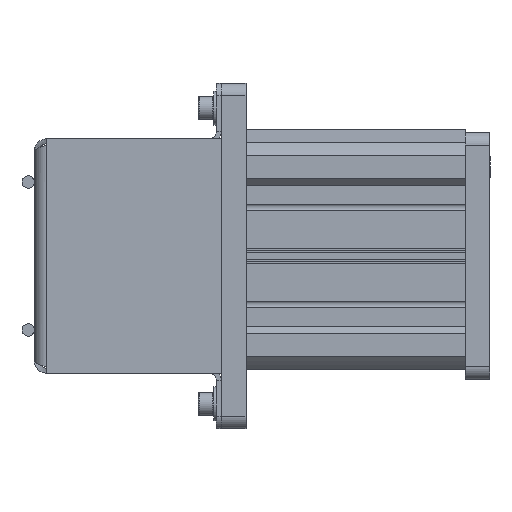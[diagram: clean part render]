
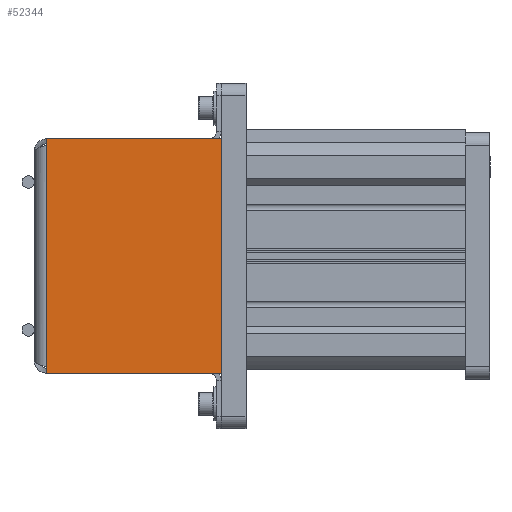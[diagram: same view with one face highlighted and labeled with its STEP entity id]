
A CAD part, left-side view. The second image highlights one B-rep face of the part: STEP entity #52344.
In plain terms, the highlighted planar face has unit normal (-1, 0, 0).
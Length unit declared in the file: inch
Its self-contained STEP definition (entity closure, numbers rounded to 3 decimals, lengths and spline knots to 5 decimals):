
#819 = VERTEX_POINT ( 'NONE', #18043 ) ;
#1921 = VERTEX_POINT ( 'NONE', #27106 ) ;
#2713 = CARTESIAN_POINT ( 'NONE',  ( -9., 3.69344, 0. ) ) ;
#3645 = EDGE_LOOP ( 'NONE', ( #19787, #14010, #46756, #21790, #54182, #21601 ) ) ;
#3896 = AXIS2_PLACEMENT_3D ( 'NONE', #2713, #19773, #44397 ) ;
#5551 = LINE ( 'NONE', #28901, #43637 ) ;
#8364 = CARTESIAN_POINT ( 'NONE',  ( -9., 3.54344, -2.375 ) ) ;
#8905 = VECTOR ( 'NONE', #29077, 39.37008 ) ;
#9940 = EDGE_CURVE ( 'NONE', #819, #27260, #52284, .T. ) ;
#11980 = DIRECTION ( 'NONE',  ( 0., -1., 0. ) ) ;
#12514 = CARTESIAN_POINT ( 'NONE',  ( -9., 3.54344, -2.24716 ) ) ;
#12568 = VECTOR ( 'NONE', #25606, 39.37008 ) ;
#12743 = DIRECTION ( 'NONE',  ( 0., -1., 0. ) ) ;
#14010 = ORIENTED_EDGE ( 'NONE', *, *, #46773, .F. ) ;
#15482 = EDGE_CURVE ( 'NONE', #819, #21083, #53516, .T. ) ;
#18043 = CARTESIAN_POINT ( 'NONE',  ( -9., 3.54344, -2.24716 ) ) ;
#19773 = DIRECTION ( 'NONE',  ( 1., 0., 0. ) ) ;
#19787 = ORIENTED_EDGE ( 'NONE', *, *, #32410, .T. ) ;
#21005 = EDGE_CURVE ( 'NONE', #27260, #1921, #42188, .T. ) ;
#21083 = VERTEX_POINT ( 'NONE', #48556 ) ;
#21446 = VECTOR ( 'NONE', #46226, 39.37008 ) ;
#21514 = CARTESIAN_POINT ( 'NONE',  ( -9., 0., 2.375 ) ) ;
#21601 = ORIENTED_EDGE ( 'NONE', *, *, #22900, .T. ) ;
#21790 = ORIENTED_EDGE ( 'NONE', *, *, #9940, .F. ) ;
#22900 = EDGE_CURVE ( 'NONE', #21083, #47095, #49785, .T. ) ;
#25102 = VECTOR ( 'NONE', #47476, 39.37008 ) ;
#25606 = DIRECTION ( 'NONE',  ( 0., 0., 1. ) ) ;
#27106 = CARTESIAN_POINT ( 'NONE',  ( -9., 3.54344, 2.375 ) ) ;
#27260 = VERTEX_POINT ( 'NONE', #45812 ) ;
#28901 = CARTESIAN_POINT ( 'NONE',  ( -9., 3.54344, 2.375 ) ) ;
#29077 = DIRECTION ( 'NONE',  ( 0., 0., -1. ) ) ;
#32397 = CARTESIAN_POINT ( 'NONE',  ( -9., 0., -2.375 ) ) ;
#32410 = EDGE_CURVE ( 'NONE', #47095, #49061, #35578, .T. ) ;
#34903 = CARTESIAN_POINT ( 'NONE',  ( -9., 3.54344, 2.24716 ) ) ;
#35578 = LINE ( 'NONE', #38138, #12568 ) ;
#36330 = PLANE ( 'NONE',  #3896 ) ;
#38138 = CARTESIAN_POINT ( 'NONE',  ( -9., 0., 0. ) ) ;
#42188 = LINE ( 'NONE', #34903, #25102 ) ;
#43258 = VECTOR ( 'NONE', #12743, 39.37008 ) ;
#43637 = VECTOR ( 'NONE', #11980, 39.37008 ) ;
#44397 = DIRECTION ( 'NONE',  ( 0., -1., 0. ) ) ;
#45812 = CARTESIAN_POINT ( 'NONE',  ( -9., 3.54344, 2.24716 ) ) ;
#46226 = DIRECTION ( 'NONE',  ( 0., 0., 1. ) ) ;
#46756 = ORIENTED_EDGE ( 'NONE', *, *, #21005, .F. ) ;
#46765 = CARTESIAN_POINT ( 'NONE',  ( -9., 3.54344, 2.375 ) ) ;
#46773 = EDGE_CURVE ( 'NONE', #1921, #49061, #5551, .T. ) ;
#47095 = VERTEX_POINT ( 'NONE', #32397 ) ;
#47476 = DIRECTION ( 'NONE',  ( 0., 0., 1. ) ) ;
#48556 = CARTESIAN_POINT ( 'NONE',  ( -9., 3.54344, -2.375 ) ) ;
#49061 = VERTEX_POINT ( 'NONE', #21514 ) ;
#49785 = LINE ( 'NONE', #8364, #43258 ) ;
#50759 = FACE_OUTER_BOUND ( 'NONE', #3645, .T. ) ;
#52284 = LINE ( 'NONE', #46765, #21446 ) ;
#52344 = ADVANCED_FACE ( 'NONE', ( #50759 ), #36330, .F. ) ;
#53516 = LINE ( 'NONE', #12514, #8905 ) ;
#54182 = ORIENTED_EDGE ( 'NONE', *, *, #15482, .T. ) ;
